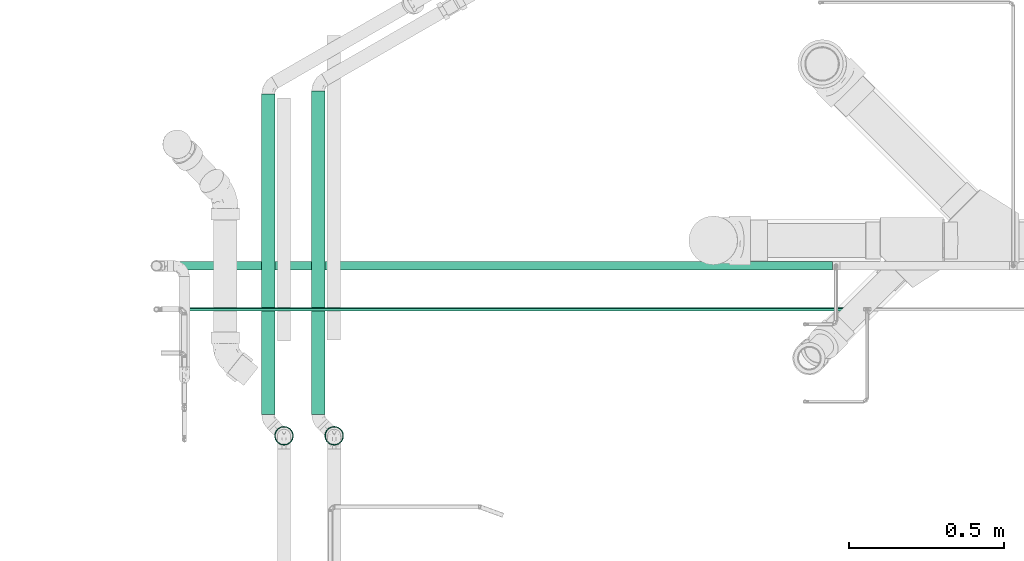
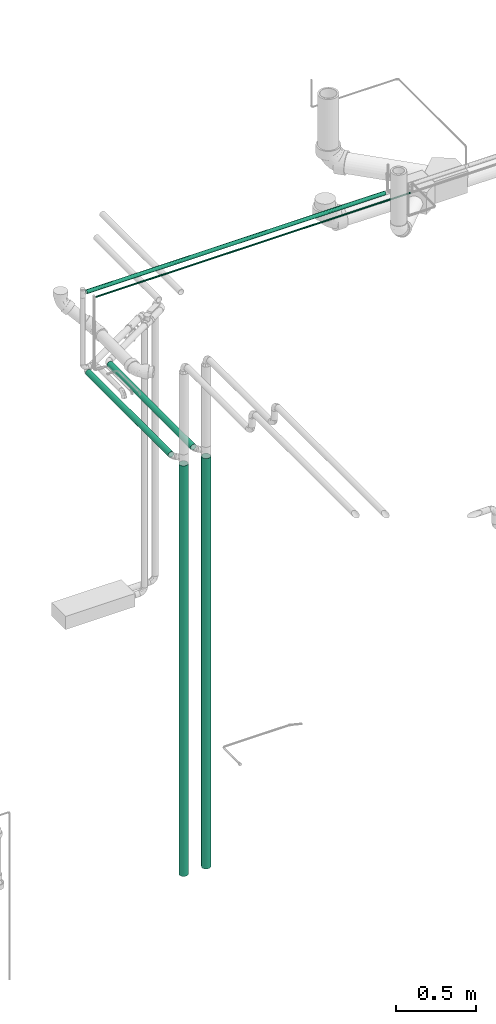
# One storey, part 23 of 108: 6 flow segments.
"""IFC2X3 building model written with IfcOpenShell, lengths in millimetres."""

from ifc_helpers import new_model, entity, si_unit, converted_unit, derived_unit, direction, frame, origin_with_axes, origin_2d_with_axis, place, context, subcontext, project, spatial, hollow_circle, extrude, source, transform, mapped, type_object, element, save


model = new_model("IFC2X3")

# Units and contexts
model_context = context("Model", 3, precision=0.01, world=frame((0.0, 4.29681676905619e-09, 0.0)), true_north=direction((4.01073788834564e-13, 1.0)))
plan_context = context("Plan", 3, precision=0.01, world=frame((0.0, 4.29681676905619e-09, 0.0)), true_north=direction((4.01073788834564e-13, 1.0)))
body_context = subcontext(model_context, "Body", "Model", "MODEL_VIEW")
ifc_project = project(units=[converted_unit("PLANEANGLEUNIT", "DEGREE", entity("IfcPositiveLengthMeasure", 0.0174532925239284), si_unit("PLANEANGLEUNIT", "RADIAN"), dimensions=[0, 0, 0, 0, 0, 0, 0]), si_unit("AREAUNIT", "SQUARE_METRE"), si_unit("LENGTHUNIT", "METRE", prefix="MILLI"), si_unit("MASSUNIT", "GRAM", prefix="KILO"), si_unit("POWERUNIT", "WATT"), si_unit("PRESSUREUNIT", "PASCAL", prefix="KILO"), si_unit("FORCEUNIT", "NEWTON", prefix="KILO"), si_unit("ELECTRICVOLTAGEUNIT", "VOLT"), si_unit("ELECTRICCURRENTUNIT", "AMPERE"), si_unit("THERMODYNAMICTEMPERATUREUNIT", "DEGREE_CELSIUS"), si_unit("TIMEUNIT", "SECOND"), si_unit("VOLUMEUNIT", "CUBIC_METRE"), derived_unit("LINEARVELOCITYUNIT", [(si_unit("LENGTHUNIT", "METRE"), 1), (si_unit("TIMEUNIT", "SECOND"), -1)]), derived_unit("VOLUMETRICFLOWRATEUNIT", [(si_unit("VOLUMEUNIT", "CUBIC_METRE"), 1), (si_unit("TIMEUNIT", "SECOND"), -1)]), derived_unit("THERMALTRANSMITTANCEUNIT", [(si_unit("POWERUNIT", "WATT"), 1), (si_unit("THERMODYNAMICTEMPERATUREUNIT", "KELVIN"), -1), (si_unit("AREAUNIT", "SQUARE_METRE"), -1)]), derived_unit("SOUNDPRESSUREUNIT", [(si_unit("PRESSUREUNIT", "PASCAL"), 1)])], contexts=[model_context, plan_context])

# Site, building, storey
site_placement = place(None, frame((0.0, -4.29681676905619e-09, 0.0), z_axis=(0.0, 0.0, 1.0), x_axis=(1.0, 0.0, 0.0)))
site = spatial("IfcSite", under=ifc_project, at=site_placement, CompositionType="ELEMENT")
building_placement = place(site_placement, frame((0.0, 4.29681676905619e-09, 0.0), z_axis=(0.0, 0.0, 1.0), x_axis=(1.0, 0.0, 0.0)))
building = spatial("IfcBuilding", under=site, at=building_placement, Name="mc-building", CompositionType="ELEMENT")
storey_placement = place(building_placement, frame((0.0, 0.0, 210200.0), z_axis=(0.0, 0.0, 1.0), x_axis=(1.0, 0.0, 0.0)))
storey = spatial("IfcBuildingStorey", under=building, at=storey_placement, Name="Nivå F - 0,7 m", CompositionType="ELEMENT", Elevation=210200.0)

# Flow segments
pipe_segment_type_1 = type_object("IfcPipeSegmentType", Name="Stålrør normaltykke", PredefinedType="RIGIDSEGMENT")
shared_shape_1 = source(origin_with_axes(), body_context, "Body", "SweptSolid", [
    extrude(hollow_circle(Radius=30.1, WallThickness=2.0, at=origin_2d_with_axis()), frame((0.0, 0.0, 0.0), z_axis=(1.0, 0.0, 0.0), x_axis=(0.0, 1.0, 0.0)), (0.0, 0.0, 1.0), 3118.2),
])
for number, where, z_axis, x_axis in (
    (1, (324610.22236, 462903.525, 2128.60000000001), (1.0, 0.0, 0.0), (0.0, 0.0, -1.0)),
    (2, (324448.8625, 462903.525, 2128.60000000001), (1.0, 0.0, 0.0), (0.0, 0.0, -1.0)),
):
    element("IfcFlowSegment", number, at=place(storey_placement, frame(where, z_axis=z_axis, x_axis=x_axis)), inside=storey, type_object=pipe_segment_type_1, Name="Stålrør normaltykke", context=body_context, shape_type="MappedRepresentation", body=[
        mapped(shared_shape_1, transform((0.0, 0.0, 0.0), scale=1.0)),
    ])
shared_shape_2 = source(origin_with_axes(), body_context, "Body", "SweptSolid", [
    extrude(hollow_circle(Radius=21.2, WallThickness=2.0, at=origin_2d_with_axis()), frame((0.0, 0.0, 0.0), z_axis=(1.0, 0.0, 0.0), x_axis=(0.0, 1.0, 0.0)), (0.0, 0.0, 1.0), 1031.2),
])
flow_segment_1_placement = place(storey_placement, frame((324398.12406, 462971.82609, 2171.0), z_axis=(0.0, 0.0, 1.0), x_axis=(0.0, 1.0, 0.0)))
element("IfcFlowSegment", 3, at=flow_segment_1_placement, inside=storey, type_object=pipe_segment_type_1, Name="Stålrør normaltykke", context=body_context, shape_type="MappedRepresentation", body=[
    mapped(shared_shape_2, transform((0.0, 0.0, 0.0), scale=1.0)),
])
shared_shape_3 = source(origin_with_axes(), body_context, "Body", "SweptSolid", [
    extrude(hollow_circle(Radius=21.2, WallThickness=2.0, at=origin_2d_with_axis()), frame((0.0, 0.0, 0.0), z_axis=(1.0, 0.0, 0.0), x_axis=(0.0, 1.0, 0.0)), (0.0, 0.0, 1.0), 1040.2),
])
flow_segment_2_placement = place(storey_placement, frame((324558.8625, 462972.44752, 2171.0), z_axis=(0.0, 0.0, 1.0), x_axis=(0.0, 1.0, 0.0)))
element("IfcFlowSegment", 4, at=flow_segment_2_placement, inside=storey, type_object=pipe_segment_type_1, Name="Stålrør normaltykke", context=body_context, shape_type="MappedRepresentation", body=[
    mapped(shared_shape_3, transform((0.0, 0.0, 0.0), scale=1.0)),
])
pipe_segment_type_2 = type_object("IfcPipeSegmentType", Name="Kobberrør", PredefinedType="RIGIDSEGMENT")
shared_shape_4 = source(origin_with_axes(), body_context, "Body", "SweptSolid", [
    extrude(hollow_circle(Radius=14.0, WallThickness=2.0, at=origin_2d_with_axis()), frame((0.0, 0.0, 0.0), z_axis=(1.0, 0.0, 0.0), x_axis=(0.0, 1.0, 0.0)), (0.0, 0.0, 1.0), 2147.3),
])
flow_segment_3_placement = place(storey_placement, frame((324064.7375, 463450.0, 3233.60013000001), z_axis=(0.0, 0.0, 1.0), x_axis=(1.0, 0.0, 0.0)))
element("IfcFlowSegment", 5, at=flow_segment_3_placement, inside=storey, type_object=pipe_segment_type_2, Name="Kobberrør", context=body_context, shape_type="MappedRepresentation", body=[
    mapped(shared_shape_4, transform((0.0, 0.0, 0.0), scale=1.0)),
])
shared_shape_5 = source(origin_with_axes(), body_context, "Body", "SweptSolid", [
    extrude(hollow_circle(Radius=6.0, WallThickness=2.0, at=origin_2d_with_axis()), frame((0.0, 0.0, 0.0), z_axis=(1.0, 0.0, 0.0), x_axis=(0.0, 1.0, 0.0)), (0.0, 0.0, 1.0), 2260.0),
])
flow_segment_4_placement = place(storey_placement, frame((324051.9875, 463310.0, 3284.41390000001), z_axis=(0.0, 0.0, 1.0), x_axis=(1.0, 0.0, 0.0)))
element("IfcFlowSegment", 6, at=flow_segment_4_placement, inside=storey, type_object=pipe_segment_type_2, Name="Kobberrør", context=body_context, shape_type="MappedRepresentation", body=[
    mapped(shared_shape_5, transform((0.0, 0.0, 0.0), scale=1.0)),
])

save(model, "model.ifc")
